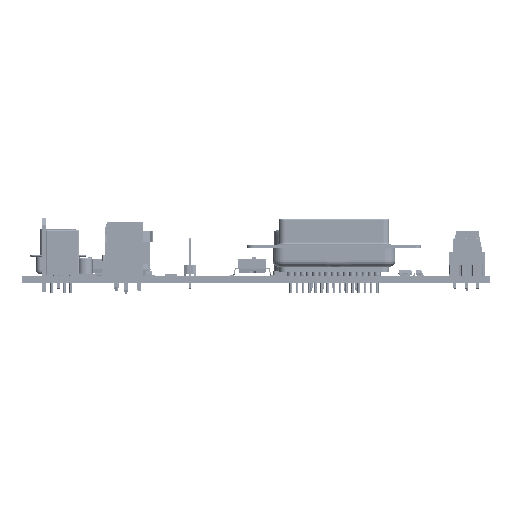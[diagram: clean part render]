
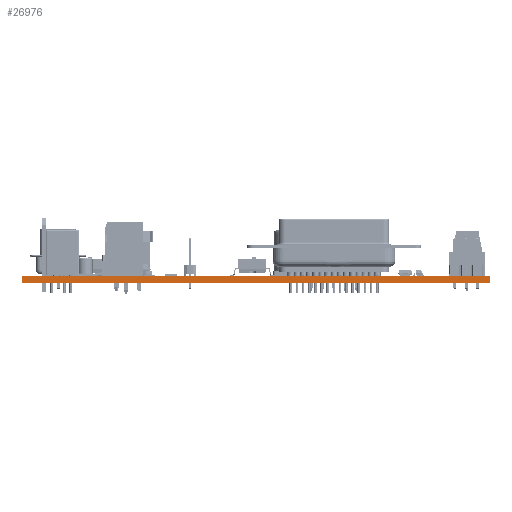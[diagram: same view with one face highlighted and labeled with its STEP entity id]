
A CAD part, left-side view. The second image highlights one B-rep face of the part: STEP entity #26976.
In plain terms, the highlighted planar face has unit normal (-1, 0, 0).
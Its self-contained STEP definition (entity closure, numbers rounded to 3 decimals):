
#1935 = FACE_OUTER_BOUND ( 'NONE', #240377, .T. ) ;
#7658 = CARTESIAN_POINT ( 'NONE',  ( 0., 0., 0. ) ) ;
#22662 = CARTESIAN_POINT ( 'NONE',  ( 0., 0., 0. ) ) ;
#23334 = LINE ( 'NONE', #131637, #325033 ) ;
#26976 = ADVANCED_FACE ( 'NONE', ( #1935 ), #129259, .F. ) ;
#27728 = CARTESIAN_POINT ( 'NONE',  ( 0., 105., 0. ) ) ;
#35888 = DIRECTION ( 'NONE',  ( 0., 0., -1. ) ) ;
#43673 = VERTEX_POINT ( 'NONE', #60939 ) ;
#50174 = DIRECTION ( 'NONE',  ( 0., 1., 0. ) ) ;
#51538 = LINE ( 'NONE', #171706, #188947 ) ;
#60939 = CARTESIAN_POINT ( 'NONE',  ( 0., 0., -1.6 ) ) ;
#74799 = EDGE_CURVE ( 'NONE', #192508, #238341, #213511, .T. ) ;
#96494 = VECTOR ( 'NONE', #237609, 1000. ) ;
#97423 = DIRECTION ( 'NONE',  ( 0., 1., 0. ) ) ;
#107075 = EDGE_CURVE ( 'NONE', #43673, #238341, #23334, .T. ) ;
#116870 = VERTEX_POINT ( 'NONE', #280038 ) ;
#129259 = PLANE ( 'NONE',  #191467 ) ;
#131637 = CARTESIAN_POINT ( 'NONE',  ( 0., 0., -1.6 ) ) ;
#164184 = LINE ( 'NONE', #7658, #231566 ) ;
#171706 = CARTESIAN_POINT ( 'NONE',  ( 0., 0., 0. ) ) ;
#185257 = ORIENTED_EDGE ( 'NONE', *, *, #74799, .T. ) ;
#188947 = VECTOR ( 'NONE', #35888, 1000. ) ;
#191467 = AXIS2_PLACEMENT_3D ( 'NONE', #22662, #285843, #50174 ) ;
#192508 = VERTEX_POINT ( 'NONE', #196768 ) ;
#196768 = CARTESIAN_POINT ( 'NONE',  ( 0., 105., 0. ) ) ;
#213511 = LINE ( 'NONE', #27728, #96494 ) ;
#231566 = VECTOR ( 'NONE', #269126, 1000. ) ;
#235531 = EDGE_CURVE ( 'NONE', #116870, #192508, #164184, .T. ) ;
#237609 = DIRECTION ( 'NONE',  ( 0., 0., -1. ) ) ;
#238341 = VERTEX_POINT ( 'NONE', #315762 ) ;
#240377 = EDGE_LOOP ( 'NONE', ( #247077, #185257, #338507, #319315 ) ) ;
#247077 = ORIENTED_EDGE ( 'NONE', *, *, #235531, .T. ) ;
#269126 = DIRECTION ( 'NONE',  ( 0., 1., 0. ) ) ;
#280038 = CARTESIAN_POINT ( 'NONE',  ( 0., 0., 0. ) ) ;
#285843 = DIRECTION ( 'NONE',  ( 1., 0., 0. ) ) ;
#294621 = EDGE_CURVE ( 'NONE', #116870, #43673, #51538, .T. ) ;
#315762 = CARTESIAN_POINT ( 'NONE',  ( 0., 105., -1.6 ) ) ;
#319315 = ORIENTED_EDGE ( 'NONE', *, *, #294621, .F. ) ;
#325033 = VECTOR ( 'NONE', #97423, 1000. ) ;
#338507 = ORIENTED_EDGE ( 'NONE', *, *, #107075, .F. ) ;
